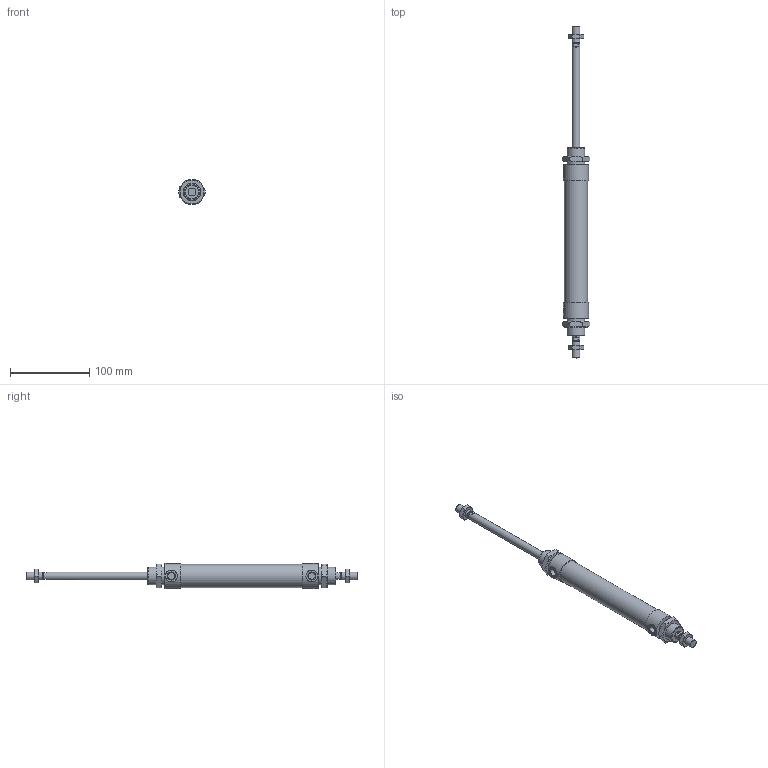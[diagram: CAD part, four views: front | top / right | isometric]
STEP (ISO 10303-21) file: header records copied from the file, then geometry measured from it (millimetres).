
FILE_DESCRIPTION((''),'2;1');
FILE_NAME('L:\Lib-3d\1200\CILINDRI\1232\1232_25_0125.stp','2006-01-05T14:36:24',('medicfa1'),(''),'Autodesk Inventor 10','Autodesk Inventor 10','');
FILE_SCHEMA(('AUTOMOTIVE_DESIGN { 1 0 10303 214 1 1 1 1 }'));
Length unit declared in the file: millimetre
Products named in the file (5): 1232_25_0125; C1232_25_125; S1232_25_125; 1200_25_05; 1200_25_06
Assembly tree (6 placements, depth 2):
  1232_25_0125
    C1232_25_125
    S1232_25_125
    1200_25_05  x2
    1200_25_06  x2
Bounding box: 34.64 x 418 x 31.5 mm (x, y, z)
Volume: 170397 mm3; surface area: 49496.1 mm2
Topology: 6 solids, 6 shells, 141 faces, 299 edges, 178 vertices
Faces by surface type: plane 62, cone 54, cylinder 15, bspline 10
Full cylindrical faces by diameter (mm): 8.7 x2, 8.8 x2, 10 x4, 15 x2, 22 x2, 29 x1, 31.5 x2
Entity records: 2620 total; most frequent: CARTESIAN_POINT 721, DIRECTION 390, ORIENTED_EDGE 324, AXIS2_PLACEMENT_3D 177, EDGE_CURVE 162, EDGE_LOOP 136, VERTEX_POINT 110, FACE_OUTER_BOUND 95
